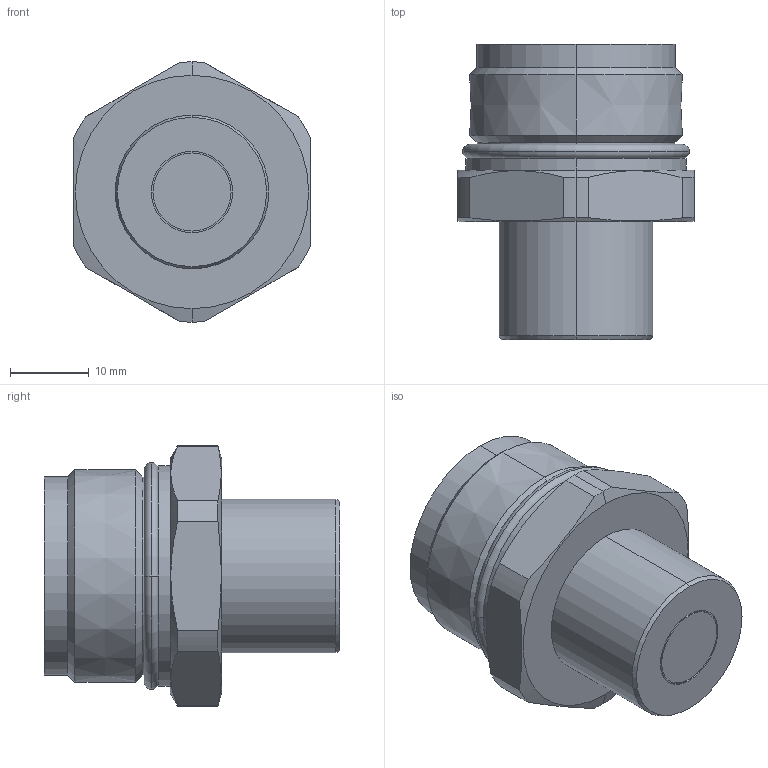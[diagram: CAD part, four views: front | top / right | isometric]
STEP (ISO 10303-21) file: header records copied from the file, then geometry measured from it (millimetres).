
FILE_DESCRIPTION (( 'STEP AP203' ), '1' );
FILE_NAME ('JLP030-x-M0_rev1.step', '2010-03-15T09:10:16', ( ' ' ), ( ' ' ), 'SwSTEP 2.0', 'SolidWorks 2009', '' );
FILE_SCHEMA (( 'CONFIG_CONTROL_DESIGN' ));
Length unit declared in the file: millimetre
Products named in the file (4): JLP030-x-M0_rev1; JLP030-x-M0_rev1.sldasm-Part-1; JLP030-x-M0_rev1.sldasm-Part-2; JLP030-x-M0_rev1.sldasm-Part-3
Assembly tree (3 placements, depth 2):
  JLP030-x-M0_rev1
    JLP030-x-M0_rev1.sldasm-Part-2
    JLP030-x-M0_rev1.sldasm-Part-3
    JLP030-x-M0_rev1.sldasm-Part-1
Bounding box: 30 x 37.5 x 33 mm (x, y, z)
Volume: 19523.7 mm3; surface area: 6153.9 mm2
Topology: 3 solids, 3 shells, 66 faces, 147 edges, 92 vertices
Faces by surface type: cylinder 23, plane 23, cone 16, torus 4
Entity records: 2355 total; most frequent: CARTESIAN_POINT 451, DIRECTION 341, ORIENTED_EDGE 294, EDGE_CURVE 147, AXIS2_PLACEMENT_3D 142, VERTEX_POINT 92, EDGE_LOOP 73, CIRCLE 70
